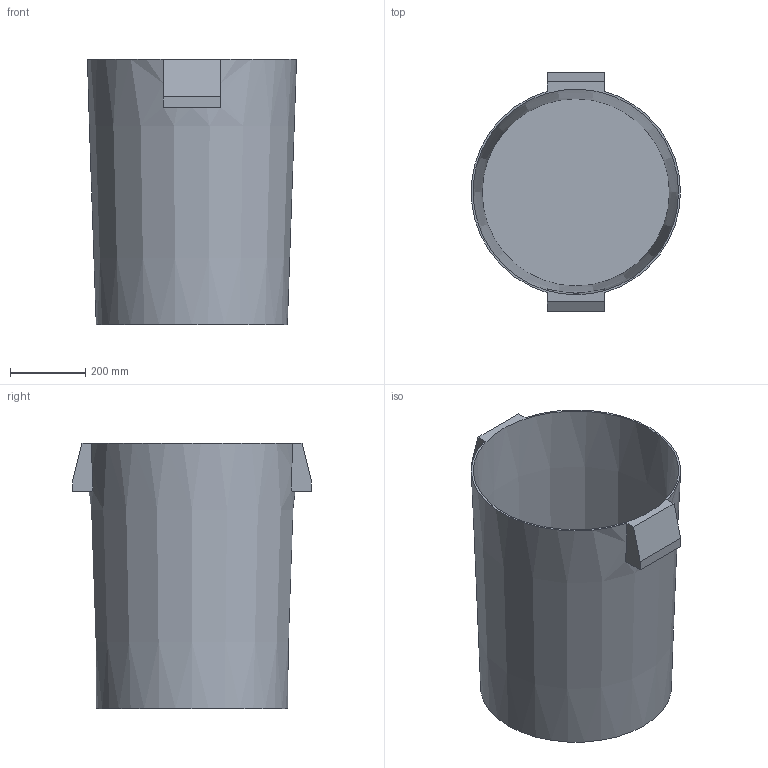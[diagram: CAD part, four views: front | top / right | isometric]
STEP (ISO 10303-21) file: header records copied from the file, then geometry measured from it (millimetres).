
FILE_DESCRIPTION(('FreeCAD Model'),'2;1');
FILE_NAME('Open CASCADE Shape Model','2025-09-23T16:03:46',('Author'),( ''),'Open CASCADE STEP processor 7.8','FreeCAD','Unknown');
FILE_SCHEMA(('AUTOMOTIVE_DESIGN { 1 0 10303 214 1 1 1 1 }'));
Length unit declared in the file: millimetre
Products named in the file (1): Body
Bounding box: 555.73 x 635 x 705.36 mm (x, y, z)
Volume: 8371962.3 mm3; surface area: 2778092.7 mm2
Topology: 1 solids, 1 shells, 16 faces, 41 edges, 28 vertices
Faces by surface type: plane 13, cone 3
Entity records: 520 total; most frequent: DIRECTION 92, CARTESIAN_POINT 86, ORIENTED_EDGE 82, EDGE_CURVE 41, AXIS2_PLACEMENT_3D 34, VERTEX_POINT 28, LINE 24, VECTOR 24
